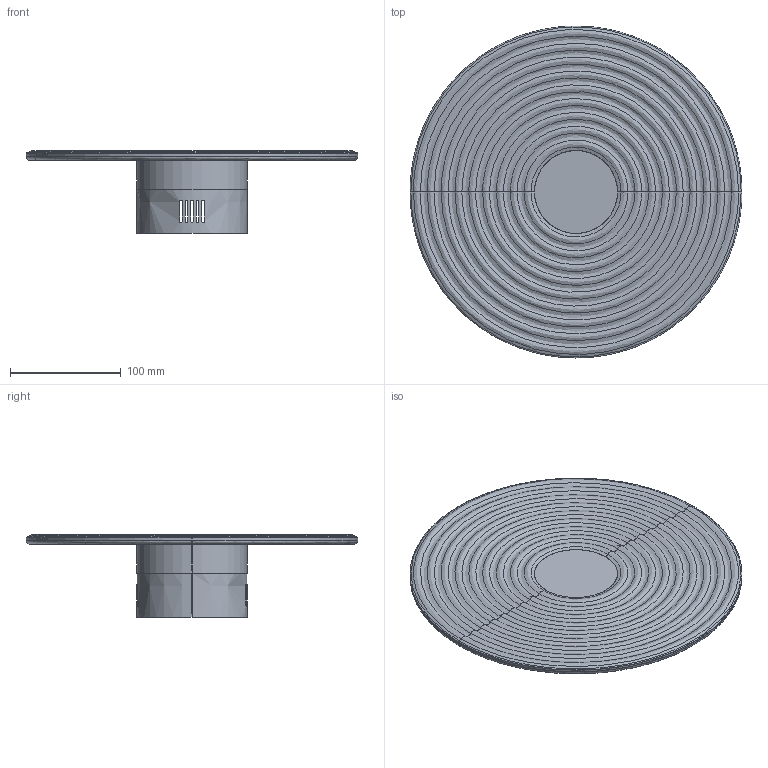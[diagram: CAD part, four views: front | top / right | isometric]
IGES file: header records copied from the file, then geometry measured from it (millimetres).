
Start section: SolidWorks IGES file using analytic representation for surfaces
Global section: file name: C:\Users\adrian\Desktop\MODELADOS USA\GLIC\GLIC_AU1199.IGS; native system: SolidWorks 2023; preprocessor: SolidWorks 2023; author: adrian; date: 260608.171013; units: inch
Bounding box: 300 x 300 x 75 mm (x, y, z)
Surface area: 216850.4 mm2 (no closed solid volume)
Topology: 0 solids, 0 shells, 142 faces, 2120 edges, 2120 vertices
Faces by surface type: bspline 90, revolution 52
